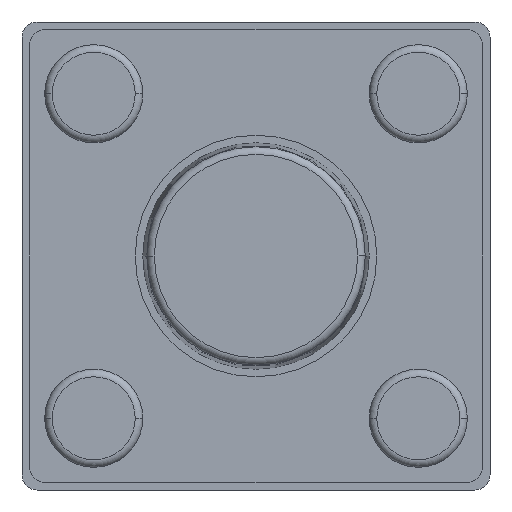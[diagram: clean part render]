
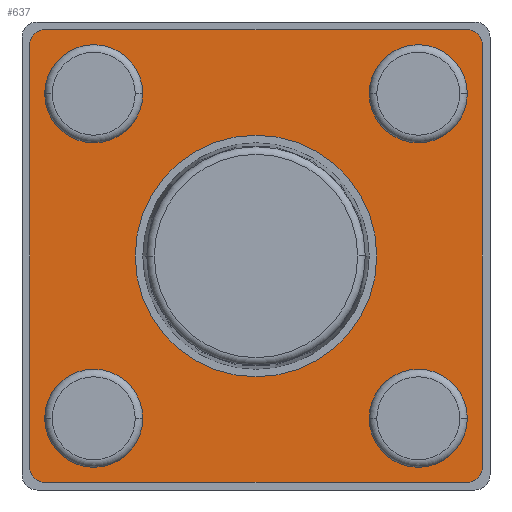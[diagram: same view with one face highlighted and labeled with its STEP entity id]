
A CAD part, front view. The second image highlights one B-rep face of the part: STEP entity #637.
In plain terms, the highlighted planar face has unit normal (0, -1, 0).
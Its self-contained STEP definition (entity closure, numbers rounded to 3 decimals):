
#180=CARTESIAN_POINT('',(-2.15,-0.2,-2.15));
#181=DIRECTION('',(0.,-1.,0.));
#182=DIRECTION('',(1.,0.,0.));
#183=AXIS2_PLACEMENT_3D('',#180,#181,#182);
#188=CARTESIAN_POINT('',(-2.15,-0.2,-2.15));
#189=DIRECTION('',(0.,-1.,0.));
#190=DIRECTION('',(-1.,0.,0.));
#191=AXIS2_PLACEMENT_3D('',#188,#189,#190);
#196=CARTESIAN_POINT('',(2.15,-0.2,-2.15));
#197=DIRECTION('',(0.,-1.,0.));
#198=DIRECTION('',(1.,0.,0.));
#199=AXIS2_PLACEMENT_3D('',#196,#197,#198);
#204=CARTESIAN_POINT('',(2.15,-0.2,-2.15));
#205=DIRECTION('',(0.,-1.,0.));
#206=DIRECTION('',(-1.,0.,0.));
#207=AXIS2_PLACEMENT_3D('',#204,#205,#206);
#212=CARTESIAN_POINT('',(2.15,-0.2,2.15));
#213=DIRECTION('',(0.,-1.,0.));
#214=DIRECTION('',(1.,0.,0.));
#215=AXIS2_PLACEMENT_3D('',#212,#213,#214);
#220=CARTESIAN_POINT('',(2.15,-0.2,2.15));
#221=DIRECTION('',(0.,-1.,0.));
#222=DIRECTION('',(-1.,0.,0.));
#223=AXIS2_PLACEMENT_3D('',#220,#221,#222);
#228=CARTESIAN_POINT('',(-2.15,-0.2,2.15));
#229=DIRECTION('',(0.,-1.,0.));
#230=DIRECTION('',(1.,0.,0.));
#231=AXIS2_PLACEMENT_3D('',#228,#229,#230);
#236=CARTESIAN_POINT('',(-2.15,-0.2,2.15));
#237=DIRECTION('',(0.,-1.,0.));
#238=DIRECTION('',(-1.,0.,0.));
#239=AXIS2_PLACEMENT_3D('',#236,#237,#238);
#244=CARTESIAN_POINT('',(0.,-0.2,0.));
#245=DIRECTION('',(0.,-1.,0.));
#246=DIRECTION('',(1.,0.,0.));
#247=AXIS2_PLACEMENT_3D('',#244,#245,#246);
#252=CARTESIAN_POINT('',(0.,-0.2,0.));
#253=DIRECTION('',(0.,-1.,0.));
#254=DIRECTION('',(-1.,0.,0.));
#255=AXIS2_PLACEMENT_3D('',#252,#253,#254);
#260=CARTESIAN_POINT('',(-2.8,-0.2,-2.8));
#261=DIRECTION('',(0.,-1.,0.));
#262=DIRECTION('',(-1.,0.,0.));
#263=AXIS2_PLACEMENT_3D('',#260,#261,#262);
#268=DIRECTION('',(0.,0.,1.));
#269=VECTOR('',#268,5.6);
#270=CARTESIAN_POINT('',(-3.,-0.2,-2.8));
#271=LINE('',#270,#269);
#275=CARTESIAN_POINT('',(-2.8,-0.2,2.8));
#276=DIRECTION('',(0.,-1.,0.));
#277=DIRECTION('',(0.,0.,1.));
#278=AXIS2_PLACEMENT_3D('',#275,#276,#277);
#283=DIRECTION('',(1.,0.,0.));
#284=VECTOR('',#283,5.6);
#285=CARTESIAN_POINT('',(-2.8,-0.2,3.));
#286=LINE('',#285,#284);
#290=CARTESIAN_POINT('',(2.8,-0.2,2.8));
#291=DIRECTION('',(0.,-1.,0.));
#292=DIRECTION('',(1.,0.,0.));
#293=AXIS2_PLACEMENT_3D('',#290,#291,#292);
#298=DIRECTION('',(0.,0.,-1.));
#299=VECTOR('',#298,5.6);
#300=CARTESIAN_POINT('',(3.,-0.2,2.8));
#301=LINE('',#300,#299);
#305=CARTESIAN_POINT('',(2.8,-0.2,-2.8));
#306=DIRECTION('',(0.,-1.,0.));
#307=DIRECTION('',(0.,0.,-1.));
#308=AXIS2_PLACEMENT_3D('',#305,#306,#307);
#313=DIRECTION('',(-1.,0.,0.));
#314=VECTOR('',#313,5.6);
#315=CARTESIAN_POINT('',(2.8,-0.2,-3.));
#316=LINE('',#315,#314);
#448=CARTESIAN_POINT('',(-1.75,-0.2,-2.15));
#449=CARTESIAN_POINT('',(-2.55,-0.2,-2.15));
#450=VERTEX_POINT('',#448);
#451=VERTEX_POINT('',#449);
#452=CARTESIAN_POINT('',(2.55,-0.2,-2.15));
#453=CARTESIAN_POINT('',(1.75,-0.2,-2.15));
#454=VERTEX_POINT('',#452);
#455=VERTEX_POINT('',#453);
#456=CARTESIAN_POINT('',(2.55,-0.2,2.15));
#457=CARTESIAN_POINT('',(1.75,-0.2,2.15));
#458=VERTEX_POINT('',#456);
#459=VERTEX_POINT('',#457);
#460=CARTESIAN_POINT('',(-1.75,-0.2,2.15));
#461=CARTESIAN_POINT('',(-2.55,-0.2,2.15));
#462=VERTEX_POINT('',#460);
#463=VERTEX_POINT('',#461);
#468=CARTESIAN_POINT('',(1.6,-0.2,0.));
#469=CARTESIAN_POINT('',(-1.6,-0.2,0.));
#470=VERTEX_POINT('',#468);
#471=VERTEX_POINT('',#469);
#476=CARTESIAN_POINT('',(-3.,-0.2,-2.8));
#477=VERTEX_POINT('',#476);
#478=CARTESIAN_POINT('',(-2.8,-0.2,-3.));
#479=VERTEX_POINT('',#478);
#484=CARTESIAN_POINT('',(-2.8,-0.2,3.));
#485=VERTEX_POINT('',#484);
#486=CARTESIAN_POINT('',(-3.,-0.2,2.8));
#487=VERTEX_POINT('',#486);
#492=CARTESIAN_POINT('',(3.,-0.2,2.8));
#493=VERTEX_POINT('',#492);
#494=CARTESIAN_POINT('',(2.8,-0.2,3.));
#495=VERTEX_POINT('',#494);
#500=CARTESIAN_POINT('',(2.8,-0.2,-3.));
#501=VERTEX_POINT('',#500);
#502=CARTESIAN_POINT('',(3.,-0.2,-2.8));
#503=VERTEX_POINT('',#502);
#586=CARTESIAN_POINT('',(0.,-0.2,0.));
#587=DIRECTION('',(0.,1.,0.));
#588=DIRECTION('',(1.,0.,0.));
#589=AXIS2_PLACEMENT_3D('',#586,#587,#588);
#590=PLANE('',#589);
#592=ORIENTED_EDGE('',*,*,#591,.F.);
#594=ORIENTED_EDGE('',*,*,#593,.T.);
#596=ORIENTED_EDGE('',*,*,#595,.F.);
#598=ORIENTED_EDGE('',*,*,#597,.T.);
#600=ORIENTED_EDGE('',*,*,#599,.F.);
#602=ORIENTED_EDGE('',*,*,#601,.T.);
#604=ORIENTED_EDGE('',*,*,#603,.F.);
#606=ORIENTED_EDGE('',*,*,#605,.T.);
#607=EDGE_LOOP('',(#592,#594,#596,#598,#600,#602,#604,#606));
#608=FACE_OUTER_BOUND('',#607,.F.);
#610=ORIENTED_EDGE('',*,*,#609,.T.);
#612=ORIENTED_EDGE('',*,*,#611,.T.);
#613=EDGE_LOOP('',(#610,#612));
#614=FACE_BOUND('',#613,.F.);
#616=ORIENTED_EDGE('',*,*,#615,.T.);
#618=ORIENTED_EDGE('',*,*,#617,.T.);
#619=EDGE_LOOP('',(#616,#618));
#620=FACE_BOUND('',#619,.F.);
#622=ORIENTED_EDGE('',*,*,#621,.T.);
#624=ORIENTED_EDGE('',*,*,#623,.T.);
#625=EDGE_LOOP('',(#622,#624));
#626=FACE_BOUND('',#625,.F.);
#628=ORIENTED_EDGE('',*,*,#627,.T.);
#630=ORIENTED_EDGE('',*,*,#629,.T.);
#631=EDGE_LOOP('',(#628,#630));
#632=FACE_BOUND('',#631,.F.);
#633=ORIENTED_EDGE('',*,*,#566,.T.);
#634=ORIENTED_EDGE('',*,*,#580,.T.);
#635=EDGE_LOOP('',(#633,#634));
#636=FACE_BOUND('',#635,.F.);
#184=CIRCLE('',#183,0.4);
#192=CIRCLE('',#191,0.4);
#200=CIRCLE('',#199,0.4);
#208=CIRCLE('',#207,0.4);
#216=CIRCLE('',#215,0.4);
#224=CIRCLE('',#223,0.4);
#232=CIRCLE('',#231,0.4);
#240=CIRCLE('',#239,0.4);
#248=CIRCLE('',#247,1.6);
#256=CIRCLE('',#255,1.6);
#264=CIRCLE('',#263,0.2);
#279=CIRCLE('',#278,0.2);
#294=CIRCLE('',#293,0.2);
#309=CIRCLE('',#308,0.2);
#566=EDGE_CURVE('',#450,#451,#184,.T.);
#580=EDGE_CURVE('',#451,#450,#192,.T.);
#591=EDGE_CURVE('',#477,#479,#264,.T.);
#593=EDGE_CURVE('',#477,#487,#271,.T.);
#595=EDGE_CURVE('',#485,#487,#279,.T.);
#597=EDGE_CURVE('',#485,#495,#286,.T.);
#599=EDGE_CURVE('',#493,#495,#294,.T.);
#601=EDGE_CURVE('',#493,#503,#301,.T.);
#603=EDGE_CURVE('',#501,#503,#309,.T.);
#605=EDGE_CURVE('',#501,#479,#316,.T.);
#609=EDGE_CURVE('',#454,#455,#200,.T.);
#611=EDGE_CURVE('',#455,#454,#208,.T.);
#615=EDGE_CURVE('',#458,#459,#216,.T.);
#617=EDGE_CURVE('',#459,#458,#224,.T.);
#621=EDGE_CURVE('',#462,#463,#232,.T.);
#623=EDGE_CURVE('',#463,#462,#240,.T.);
#627=EDGE_CURVE('',#470,#471,#248,.T.);
#629=EDGE_CURVE('',#471,#470,#256,.T.);
#637=ADVANCED_FACE('',(#608,#614,#620,#626,#632,#636),#590,.F.);
